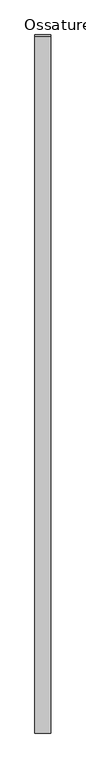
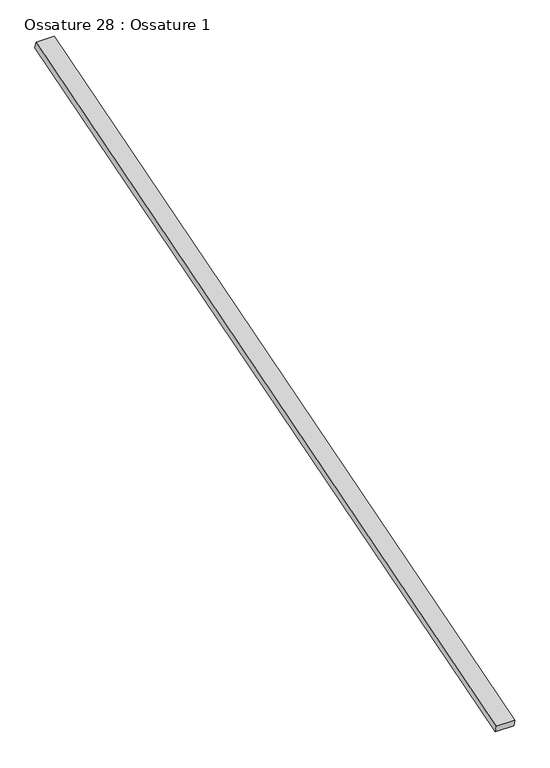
"""IFC4 building model written with IfcOpenShell, lengths in millimetres: beam geometry, Ossature 28 : Ossature 1."""

from ifc_helpers import new_model, si_unit, frame, origin, place, context, project, spatial, polyline, outline, extrude, source, transform, mapped, element, save


def ossature_28_ossature_1_109dcba6(model_context):
    return source(origin(), model_context, "Body", "SweptSolid", [
        extrude(outline(polyline([(0.0, 0.0), (0.0, -4543.0299679), (-100.0, -4543.0299679), (-100.0, 0.0), (0.0, 0.0)])), frame((6974.0466393, -833.3913565, 8153.6336115), z_axis=(0.0, -0.28734788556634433, 0.9578262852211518), x_axis=(-1.0, 0.0, 0.0)), (0.0, 0.0, 1.0), 40.0),
    ])


if __name__ == "__main__":
    model = new_model("IFC4")
    model_context = context("Model", 3, world=origin())
    ifc_project = project(units=[si_unit("LENGTHUNIT", "METRE", prefix="MILLI")], contexts=[model_context])
    site = spatial("IfcSite", under=ifc_project)
    building = spatial("IfcBuilding", under=site)
    placement = place(None, origin())
    ossature_28_ossature_1_shape = ossature_28_ossature_1_109dcba6(model_context)
    element("IfcBeam", 1, ObjectType="Ossature 28 : Ossature 1", at=placement, inside=building, context=model_context, shape_type="MappedRepresentation", body=[
        mapped(ossature_28_ossature_1_shape, transform((0.0, 0.0, 0.0), x_axis=(1.0, 0.0, 0.0), y_axis=(0.0, 1.0, 0.0), z_axis=(0.0, 0.0, 1.0))),
    ])
    save(model, "model.ifc")
